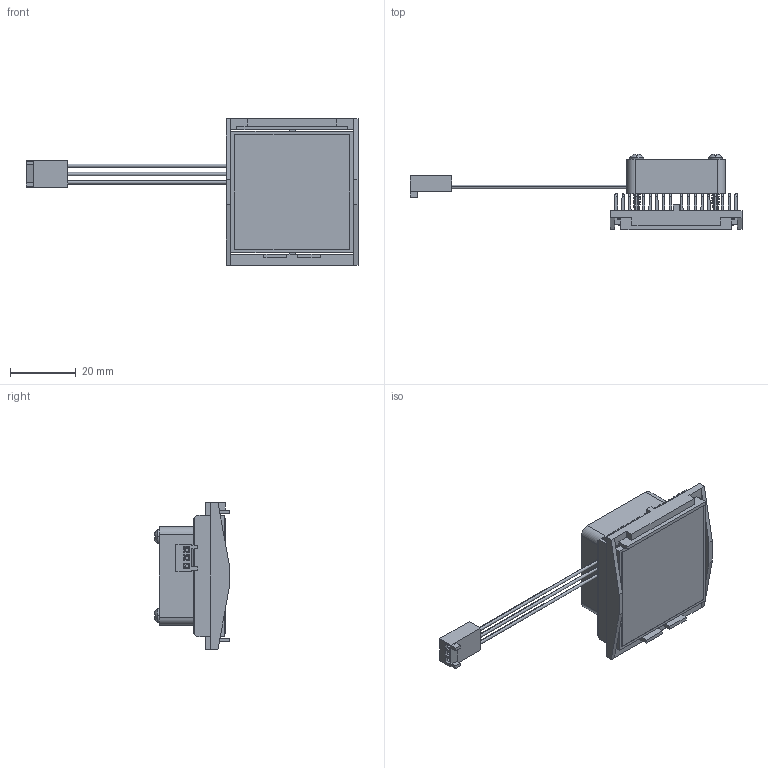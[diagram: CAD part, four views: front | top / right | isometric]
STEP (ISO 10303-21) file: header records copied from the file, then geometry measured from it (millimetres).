
FILE_DESCRIPTION (( 'STEP AP214' ), '1' );
FILE_NAME ('FJ37.5-1.7+B.STEP', '2023-05-09T18:40:43', ( '' ), ( '' ), 'SwSTEP 2.0', 'SolidWorks 2020', '' );
FILE_SCHEMA (( 'AUTOMOTIVE_DESIGN' ));
Length unit declared in the file: millimetre
Products named in the file (1): FJ37.5-1.7+B
Bounding box: 101.09 x 23 x 44.6 mm (x, y, z)
Volume: 12908.1 mm3; surface area: 25021.6 mm2
Topology: 8 solids, 8 shells, 912 faces, 2634 edges, 1750 vertices
Faces by surface type: cylinder 390, plane 344, bspline 122, cone 40, sphere 8, torus 8
Entity records: 65593 total; most frequent: CARTESIAN_POINT 34333, ORIENTED_EDGE 5268, DIRECTION 3576, EDGE_CURVE 2634, VERTEX_POINT 1750, LINE 1330, VECTOR 1330, AXIS2_PLACEMENT_3D 1123
